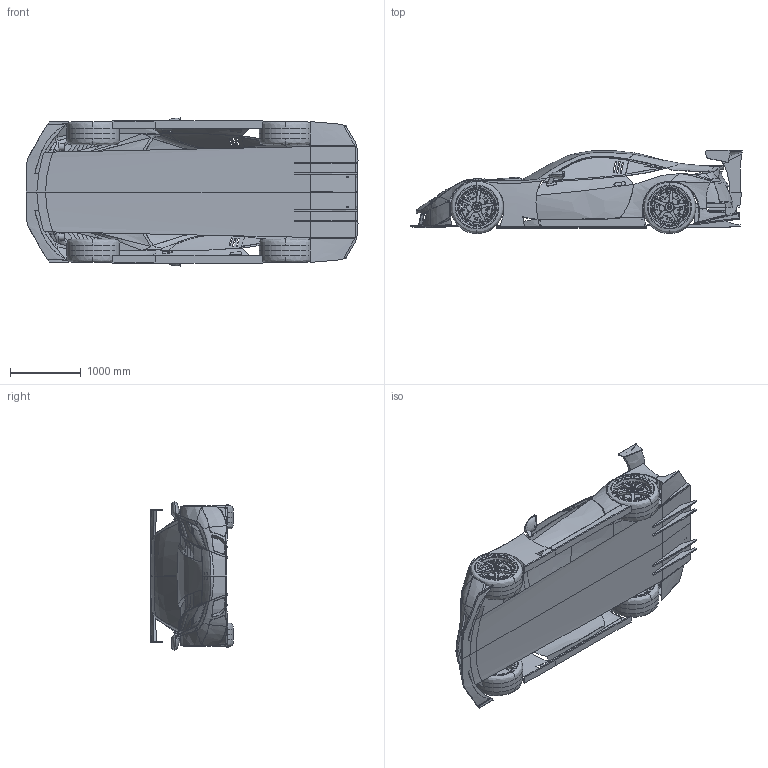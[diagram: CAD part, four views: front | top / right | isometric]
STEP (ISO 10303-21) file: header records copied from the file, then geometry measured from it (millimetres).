
FILE_DESCRIPTION (( 'STEP AP214' ), '1' );
FILE_NAME ('honda hsv.STEP', '2015-03-07T16:16:53', ( '' ), ( '' ), 'SwSTEP 2.0', 'SolidWorks 2014', '' );
FILE_SCHEMA (( 'AUTOMOTIVE_DESIGN' ));
Length unit declared in the file: millimetre
Products named in the file (1): honda hsv
Bounding box: 4699.2 x 1174.94 x 2095.75 mm (x, y, z)
Surface area: 40636223.8 mm2 (no closed solid volume)
Topology: 0 solids, 442 shells, 2696 faces, 8018 edges, 5782 vertices
Faces by surface type: plane 899, cylinder 806, bspline 675, torus 276, cone 40
Entity records: 197585 total; most frequent: CARTESIAN_POINT 113510, ORIENTED_EDGE 13436, DIRECTION 11780, EDGE_CURVE 7924, VERTEX_POINT 5782, AXIS2_PLACEMENT_3D 4402, VECTOR 2976, LINE 2976
